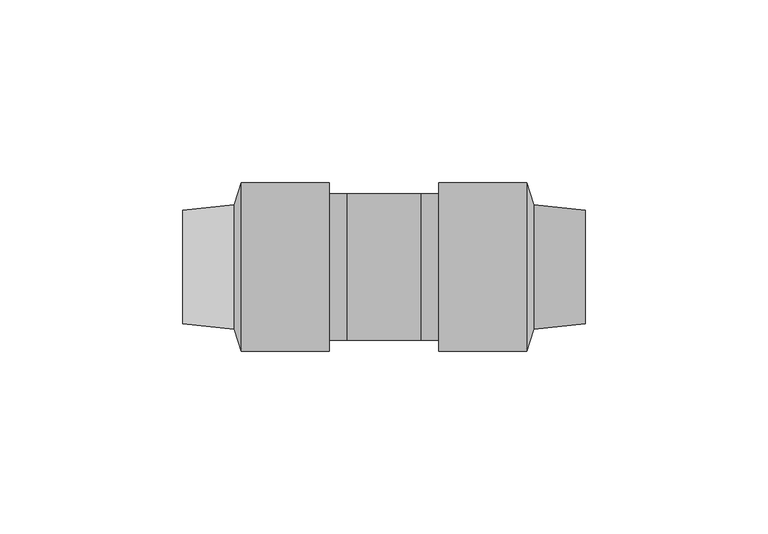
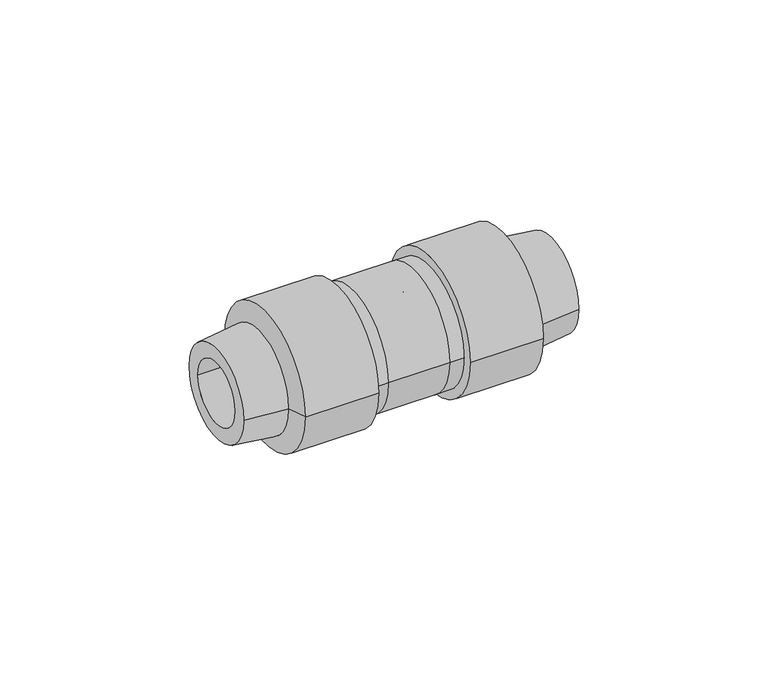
"""IFC4 building model written with IfcOpenShell, lengths in millimetres: pipe fitting geometry, Pipelife - PE - Złącze proste : Pipelife - PE - Złącze proste."""

from ifc_helpers import new_model, si_unit, frame, origin, place, context, project, spatial, polyline, circle_curve, source, transform, mapped, element, save
from ifc_brep_helpers import plane_surface, cylinder_surface, revolved_surface, advanced_brep


def pipe_fitting_45409f8b(model_context):
    return source(origin(), model_context, "Body", "AdvancedBrep", [
        advanced_brep(
        [(15.0, -23.0, 0.0), (15.0, 23.0, 0.0), (15.0, 10.5, 0.0), (15.0, -10.5, 0.0), (39.0, -23.0, 0.0), (39.0, 23.0, 0.0), (55.0, -10.5, 0.0), (55.0, 10.5, 0.0), (41.0, -17.0, 0.0), (41.0, 17.0, 0.0), (55.0, 15.5, 0.0), (55.0, -15.5, 0.0)],
        [
            (0, 1, circle_curve(frame((15.0, 0.0, 0.0), z_axis=(-1.0, 0.0, 0.0), x_axis=(0.0, 1.0, 0.0)), 23.0)),
            (1, 0, circle_curve(frame((15.0, 0.0, 0.0), z_axis=(-1.0, 0.0, 0.0), x_axis=(0.0, 1.0, 0.0)), 23.0)),
            (2, 3, circle_curve(frame((15.0, 0.0, 0.0), z_axis=(1.0, 0.0, 0.0), x_axis=(0.0, 1.0, 0.0)), 10.5)),
            (3, 2, circle_curve(frame((15.0, 0.0, 0.0), z_axis=(1.0, 0.0, 0.0), x_axis=(0.0, 1.0, 0.0)), 10.5)),
            (0, 4),
            (4, 5, circle_curve(frame((39.0, 0.0, 0.0), z_axis=(-1.0, 0.0, 0.0), x_axis=(0.0, 1.0, 0.0)), 23.0)),
            (5, 1),
            (5, 4, circle_curve(frame((39.0, 0.0, 0.0), z_axis=(-1.0, 0.0, 0.0), x_axis=(0.0, 1.0, 0.0)), 23.0)),
            (6, 3),
            (2, 7),
            (7, 6, circle_curve(frame((55.0, 0.0, 0.0), z_axis=(1.0, 0.0, 0.0), x_axis=(0.0, 1.0, 0.0)), 10.5)),
            (6, 7, circle_curve(frame((55.0, 0.0, 0.0), z_axis=(1.0, 0.0, 0.0), x_axis=(0.0, 1.0, 0.0)), 10.5)),
            (8, 4),
            (5, 9),
            (9, 8, circle_curve(frame((41.0, 0.0, 0.0), z_axis=(-1.0, 0.0, 0.0), x_axis=(0.0, 1.0, 0.0)), 17.0)),
            (8, 9, circle_curve(frame((41.0, 0.0, 0.0), z_axis=(-1.0, 0.0, 0.0), x_axis=(0.0, -1.0, 0.0)), 17.0)),
            (10, 11, circle_curve(frame((55.0, 0.0, 0.0), z_axis=(1.0, 0.0, 0.0), x_axis=(0.0, -1.0, 0.0)), 15.5)),
            (11, 10, circle_curve(frame((55.0, 0.0, 0.0), z_axis=(1.0, 0.0, 0.0), x_axis=(0.0, 1.0, 0.0)), 15.5)),
            (11, 8),
            (9, 10),
        ],
        [
            plane_surface(frame((15.0, 0.0, 0.0), z_axis=(-1.0, 0.0, 0.0), x_axis=(0.0, 0.0, 1.0))),
            cylinder_surface(frame((15.0, 0.0, 0.0), z_axis=(-1.0, 0.0, 0.0), x_axis=(0.0, 1.0, 0.0)), 23.0),
            revolved_surface(polyline([(15.0, 10.5, 0.0), (55.0, 10.5, 0.0)]), (3.0, 0.0, 0.0), (-1.0, 0.0, 0.0)),
            revolved_surface(polyline([(41.0, -17.00000002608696, 0.0), (39.0, -23.0, 0.0)]), (46.6666667, 0.0, 0.0), (-1.0, 0.0, 0.0)),
            plane_surface(frame((55.0, 0.0, 0.0), z_axis=(1.0, 0.0, 0.0), x_axis=(0.0, 0.0, -1.0))),
            revolved_surface(polyline([(55.0, -15.500000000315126, 0.0), (41.0, -17.0, 0.0)]), (199.6666667, 0.0, 0.0), (-1.0, 0.0, 0.0)),
            revolved_surface(polyline([(55.0, 15.500000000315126, 0.0), (41.0, 17.0, 0.0)]), (199.6666667, 0.0, 0.0), (-1.0, 0.0, 0.0)),
        ],
        [
            (0, [[1, 2], [3, 4]]),
            (1, [[-1, 5, 6, 7]]),
            (1, [[-2, -7, 8, -5]]),
            (2, [[9, -3, 10, 11]]),
            (2, [[-9, 12, -10, -4]]),
            (3, [[13, -8, 14, 15]]),
            (3, [[-13, 16, -14, -6]]),
            (4, [[17, 18], [-11, -12]]),
            (5, [[-18, 19, -15, 20]]),
            (6, [[-17, -20, -16, -19]]),
        ],
    ),
        advanced_brep(
        [(-10.0, -20.0, 0.0), (10.0, -20.0, 0.0), (10.0, 20.0, 0.0), (-10.0, 20.0, 0.0), (-3.0, -10.5, 0.0), (-3.0, 10.5, 0.0), (-15.0, -10.5, 0.0), (-15.0, 10.5, 0.0), (3.0, -10.5, 0.0), (3.0, 10.5, 0.0), (10.0, 10.5, 0.0), (10.0, -10.5, 0.0), (-15.0, -20.0, 0.0), (-15.0, 20.0, 0.0), (15.0, -20.0, 0.0), (15.0, 20.0, 0.0), (15.0, -10.5, 0.0), (15.0, 10.5, 0.0)],
        [
            (0, 1),
            (1, 2, circle_curve(frame((10.0, 0.0, 0.0), z_axis=(-1.0, 0.0, 0.0), x_axis=(0.0, 1.0, 0.0)), 20.0)),
            (2, 3),
            (3, 0, circle_curve(frame((-10.0, 0.0, 0.0), z_axis=(1.0, 0.0, 0.0), x_axis=(0.0, 1.0, 0.0)), 20.0)),
            (0, 3, circle_curve(frame((-10.0, 0.0, 0.0), z_axis=(1.0, 0.0, 0.0), x_axis=(0.0, 1.0, 0.0)), 20.0)),
            (2, 1, circle_curve(frame((10.0, 0.0, 0.0), z_axis=(-1.0, 0.0, 0.0), x_axis=(0.0, 1.0, 0.0)), 20.0)),
            (4, 5, circle_curve(frame((-3.0, 0.0, 0.0), z_axis=(-1.0, 0.0, 0.0), x_axis=(0.0, 1.0, 0.0)), 10.5)),
            (5, 4, circle_curve(frame((-3.0, 0.0, 0.0), z_axis=(-1.0, 0.0, 0.0), x_axis=(0.0, 1.0, 0.0)), 10.5)),
            (4, 6),
            (6, 7, circle_curve(frame((-15.0, 0.0, 0.0), z_axis=(-1.0, 0.0, 0.0), x_axis=(0.0, 1.0, 0.0)), 10.5)),
            (7, 5),
            (7, 6, circle_curve(frame((-15.0, 0.0, 0.0), z_axis=(-1.0, 0.0, 0.0), x_axis=(0.0, 1.0, 0.0)), 10.5)),
            (8, 9, circle_curve(frame((3.0, 0.0, 0.0), z_axis=(1.0, 0.0, 0.0), x_axis=(0.0, 1.0, 0.0)), 10.5)),
            (9, 8, circle_curve(frame((3.0, 0.0, 0.0), z_axis=(1.0, 0.0, 0.0), x_axis=(0.0, 1.0, 0.0)), 10.5)),
            (9, 10),
            (10, 11, circle_curve(frame((10.0, 0.0, 0.0), z_axis=(1.0, 0.0, 0.0), x_axis=(0.0, 1.0, 0.0)), 10.5)),
            (11, 8),
            (11, 10, circle_curve(frame((10.0, 0.0, 0.0), z_axis=(1.0, 0.0, 0.0), x_axis=(0.0, 1.0, 0.0)), 10.5)),
            (12, 13, circle_curve(frame((-15.0, 0.0, 0.0), z_axis=(-1.0, 0.0, 0.0), x_axis=(0.0, 1.0, 0.0)), 20.0)),
            (13, 12, circle_curve(frame((-15.0, 0.0, 0.0), z_axis=(-1.0, 0.0, 0.0), x_axis=(0.0, 1.0, 0.0)), 20.0)),
            (12, 0),
            (3, 13),
            (14, 15, circle_curve(frame((15.0, 0.0, 0.0), z_axis=(1.0, 0.0, 0.0), x_axis=(0.0, 1.0, 0.0)), 20.0)),
            (15, 14, circle_curve(frame((15.0, 0.0, 0.0), z_axis=(1.0, 0.0, 0.0), x_axis=(0.0, 1.0, 0.0)), 20.0)),
            (16, 17, circle_curve(frame((15.0, 0.0, 0.0), z_axis=(-1.0, 0.0, 0.0), x_axis=(0.0, 1.0, 0.0)), 10.5)),
            (17, 16, circle_curve(frame((15.0, 0.0, 0.0), z_axis=(-1.0, 0.0, 0.0), x_axis=(0.0, 1.0, 0.0)), 10.5)),
            (15, 2),
            (1, 14),
            (16, 11),
            (10, 17),
        ],
        [
            cylinder_surface(frame((-10.0, 0.0, 0.0), z_axis=(-1.0, 0.0, 0.0), x_axis=(0.0, 1.0, 0.0)), 20.0),
            plane_surface(frame((-3.0, 0.0, 0.0), z_axis=(-1.0, 0.0, 0.0), x_axis=(0.0, 0.0, 1.0))),
            revolved_surface(polyline([(-15.0, 10.5, 0.0), (-3.0, 10.5, 0.0)]), (-55.0, 0.0, 0.0), (-1.0, 0.0, 0.0)),
            plane_surface(frame((3.0, 0.0, 0.0), z_axis=(1.0, 0.0, 0.0), x_axis=(0.0, 0.0, 1.0))),
            revolved_surface(polyline([(3.0, 10.5, 0.0), (10.0, 10.5, 0.0)]), (3.0, 0.0, 0.0), (-1.0, 0.0, 0.0)),
            plane_surface(frame((-15.0, 0.0, 0.0), z_axis=(-1.0, 0.0, 0.0), x_axis=(0.0, 0.0, 1.0))),
            cylinder_surface(frame((-15.0, 0.0, 0.0), z_axis=(-1.0, 0.0, 0.0), x_axis=(0.0, 1.0, 0.0)), 20.0),
            plane_surface(frame((15.0, 0.0, 0.0), z_axis=(1.0, 0.0, 0.0), x_axis=(0.0, 0.0, 1.0))),
            cylinder_surface(frame((10.0, 0.0, 0.0), z_axis=(-1.0, 0.0, 0.0), x_axis=(0.0, 1.0, 0.0)), 20.0),
            revolved_surface(polyline([(10.0, 10.5, 0.0), (15.0, 10.5, 0.0)]), (3.0, 0.0, 0.0), (-1.0, 0.0, 0.0)),
        ],
        [
            (0, [[1, 2, 3, 4]]),
            (0, [[-1, 5, -3, 6]]),
            (1, [[7, 8]]),
            (2, [[-7, 9, 10, 11]]),
            (2, [[-8, -11, 12, -9]]),
            (3, [[13, 14]]),
            (4, [[-14, 15, 16, 17]]),
            (4, [[-13, -17, 18, -15]]),
            (5, [[19, 20], [-10, -12]]),
            (6, [[-19, 21, -4, 22]]),
            (6, [[-20, -22, -5, -21]]),
            (7, [[23, 24], [25, 26]]),
            (8, [[-24, 27, -2, 28]]),
            (8, [[-23, -28, -6, -27]]),
            (9, [[29, -16, 30, -25]]),
            (9, [[-29, -26, -30, -18]]),
        ],
    ),
        advanced_brep(
        [(-15.0, -23.0, 0.0), (-15.0, 23.0, 0.0), (-15.0, -10.5, 0.0), (-15.0, 10.5, 0.0), (-39.0, 23.0, 0.0), (-39.0, -23.0, 0.0), (-55.0, -10.5, 0.0), (-55.0, 10.5, 0.0), (-41.0, 17.0, 0.0), (-41.0, -17.0, 0.0), (-55.0, -15.5, 0.0), (-55.0, 15.5, 0.0)],
        [
            (0, 1, circle_curve(frame((-15.0, 0.0, 0.0), z_axis=(1.0, 0.0, 0.0), x_axis=(0.0, 1.0, 0.0)), 23.0)),
            (1, 0, circle_curve(frame((-15.0, 0.0, 0.0), z_axis=(1.0, 0.0, 0.0), x_axis=(0.0, 1.0, 0.0)), 23.0)),
            (2, 3, circle_curve(frame((-15.0, 0.0, 0.0), z_axis=(-1.0, 0.0, 0.0), x_axis=(0.0, 1.0, 0.0)), 10.5)),
            (3, 2, circle_curve(frame((-15.0, 0.0, 0.0), z_axis=(-1.0, 0.0, 0.0), x_axis=(0.0, 1.0, 0.0)), 10.5)),
            (1, 4),
            (4, 5, circle_curve(frame((-39.0, 0.0, 0.0), z_axis=(1.0, 0.0, 0.0), x_axis=(0.0, 1.0, 0.0)), 23.0)),
            (5, 0),
            (5, 4, circle_curve(frame((-39.0, 0.0, 0.0), z_axis=(1.0, 0.0, 0.0), x_axis=(0.0, 1.0, 0.0)), 23.0)),
            (2, 6),
            (6, 7, circle_curve(frame((-55.0, 0.0, 0.0), z_axis=(-1.0, 0.0, 0.0), x_axis=(0.0, 1.0, 0.0)), 10.5)),
            (7, 3),
            (7, 6, circle_curve(frame((-55.0, 0.0, 0.0), z_axis=(-1.0, 0.0, 0.0), x_axis=(0.0, 1.0, 0.0)), 10.5)),
            (8, 4),
            (5, 9),
            (9, 8, circle_curve(frame((-41.0, 0.0, 0.0), z_axis=(1.0, 0.0, 0.0), x_axis=(0.0, -1.0, 0.0)), 17.0)),
            (8, 9, circle_curve(frame((-41.0, 0.0, 0.0), z_axis=(1.0, 0.0, 0.0), x_axis=(0.0, 1.0, 0.0)), 17.0)),
            (10, 11, circle_curve(frame((-55.0, 0.0, 0.0), z_axis=(-1.0, 0.0, 0.0), x_axis=(0.0, 1.0, 0.0)), 15.5)),
            (11, 10, circle_curve(frame((-55.0, 0.0, 0.0), z_axis=(-1.0, 0.0, 0.0), x_axis=(0.0, -1.0, 0.0)), 15.5)),
            (11, 8),
            (9, 10),
        ],
        [
            plane_surface(frame((-15.0, 0.0, 0.0), z_axis=(1.0, 0.0, 0.0), x_axis=(0.0, 0.0, 1.0))),
            cylinder_surface(frame((-39.0, 0.0, 0.0), z_axis=(-1.0, 0.0, 0.0), x_axis=(0.0, 1.0, 0.0)), 23.0),
            revolved_surface(polyline([(-55.0, 10.5, 0.0), (-15.0, 10.5, 0.0)]), (-55.0, 0.0, 0.0), (-1.0, 0.0, 0.0)),
            revolved_surface(polyline([(-41.0, 17.00000002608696, 0.0), (-39.0, 23.0, 0.0)]), (-46.6666667, 0.0, 0.0), (1.0, 0.0, 0.0)),
            plane_surface(frame((-55.0, 0.0, 0.0), z_axis=(-1.0, 0.0, 0.0), x_axis=(0.0, 0.0, -1.0))),
            revolved_surface(polyline([(-55.0, 15.500000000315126, 0.0), (-41.0, 17.0, 0.0)]), (-199.6666667, 0.0, 0.0), (1.0, 0.0, 0.0)),
            revolved_surface(polyline([(-55.0, -15.500000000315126, 0.0), (-41.0, -17.0, 0.0)]), (-199.6666667, 0.0, 0.0), (1.0, 0.0, 0.0)),
        ],
        [
            (0, [[1, 2], [3, 4]]),
            (1, [[-2, 5, 6, 7]]),
            (1, [[-1, -7, 8, -5]]),
            (2, [[9, 10, 11, -3]]),
            (2, [[-9, -4, -11, 12]]),
            (3, [[13, -8, 14, 15]]),
            (3, [[-13, 16, -14, -6]]),
            (4, [[17, 18], [-10, -12]]),
            (5, [[-18, 19, -15, 20]]),
            (6, [[-17, -20, -16, -19]]),
        ],
    ),
    ])


if __name__ == "__main__":
    model = new_model("IFC4")
    model_context = context("Model", 3, world=origin())
    ifc_project = project(units=[si_unit("LENGTHUNIT", "METRE", prefix="MILLI")], contexts=[model_context])
    site = spatial("IfcSite", under=ifc_project)
    building = spatial("IfcBuilding", under=site)
    placement = place(None, origin())
    pipe_fitting_shape = pipe_fitting_45409f8b(model_context)
    element("IfcPipeFitting", 1, ObjectType="Pipelife - PE - Złącze proste : Pipelife - PE - Złącze proste", at=placement, inside=building, context=model_context, shape_type="MappedRepresentation", body=[
        mapped(pipe_fitting_shape, transform((0.0, 0.0, 0.0), x_axis=(1.0, 0.0, 0.0), y_axis=(0.0, 1.0, 0.0), z_axis=(0.0, 0.0, 1.0))),
    ])
    save(model, "model.ifc")
